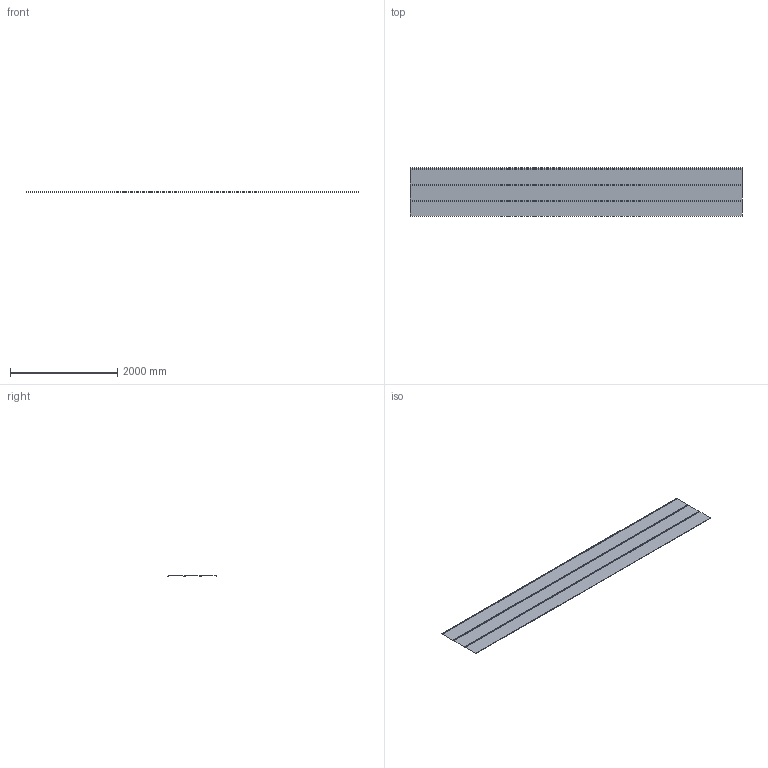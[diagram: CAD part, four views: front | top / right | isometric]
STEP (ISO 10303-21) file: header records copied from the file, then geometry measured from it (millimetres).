
FILE_DESCRIPTION(/* description */ (''),/* implementation_level */ '2;1');
FILE_NAME(/* name */ 'PREFA_~1',/* time_stamp */ '2020-07-21T15:05:51+02:00',/* author */ (''),/* organization */ (''),/* preprocessor_version */ 'ST-DEVELOPER v15',/* originating_system */ '',/* authorisation */ '');
FILE_SCHEMA (('AUTOMOTIVE_DESIGN'));
Length unit declared in the file: millimetre
Products named in the file (1): Document
Bounding box: 6200 x 908.6 x 6.5 mm (x, y, z)
Surface area: 5935787.7 mm2 (no closed solid volume)
Topology: 0 solids, 3 shells, 24 faces, 75 edges, 54 vertices
Faces by surface type: plane 12, bspline 12
Entity records: 717 total; most frequent: CARTESIAN_POINT 314, ORIENTED_EDGE 96, EDGE_CURVE 75, VERTEX_POINT 54, B_SPLINE_CURVE_WITH_KNOTS 39, ADVANCED_FACE 24, FACE_OUTER_BOUND 24, EDGE_LOOP 24
